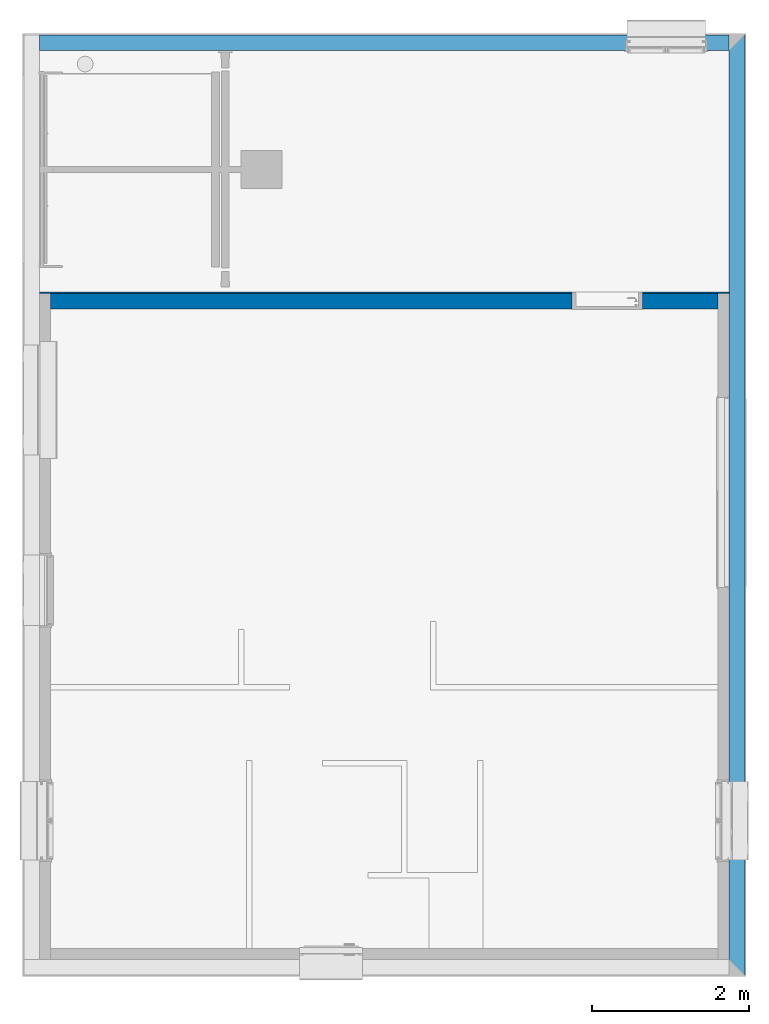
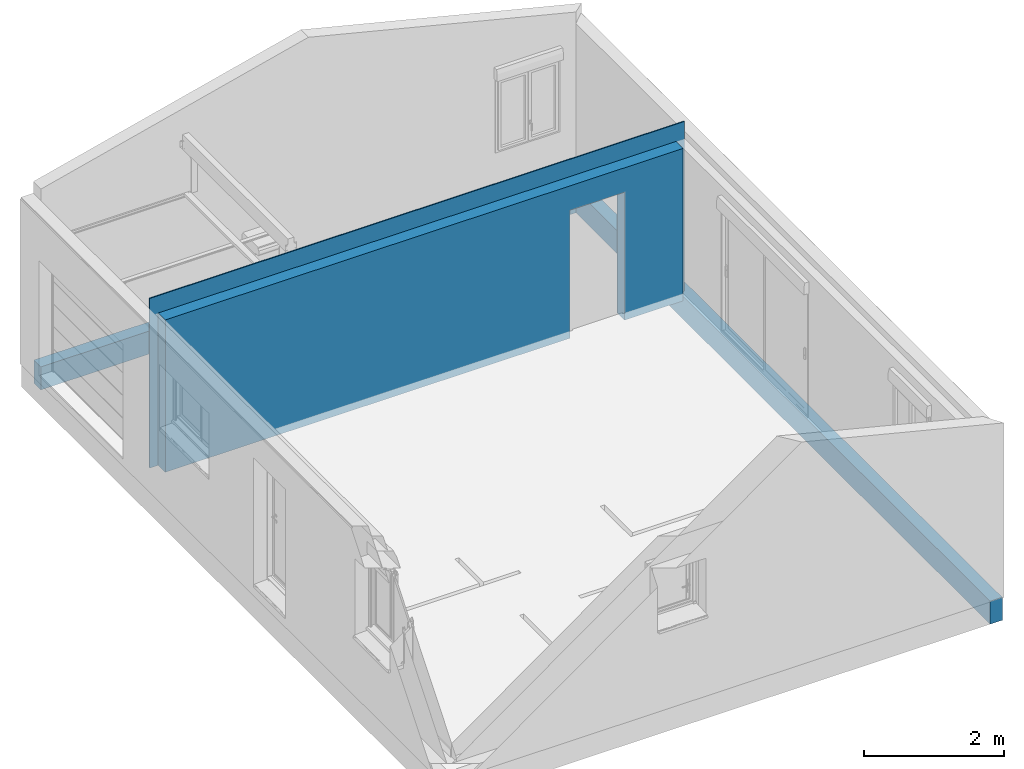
# One storey, part 2 of 7: 4 walls, 2 openings.
"""IFC2X3 building model written with IfcOpenShell, lengths in metres."""

from ifc_helpers import new_model, entity, si_unit, converted_unit, derived_unit, direction, frame, frame_2d, origin, place, context, subcontext, project, spatial, polyline, rectangle, extrude, clip, bounded_halfspace, material, layer, layer_set, layer_usage, type_object, element, save


model = new_model("IFC2X3")

# Units and contexts
model_context = context("Model", 3, precision=1e-05, world=origin(), true_north=direction((6.123031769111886e-17, 1.0)))
body_context = subcontext(model_context, "Body", "Model", "MODEL_VIEW")
ifc_project = project(units=[si_unit("LENGTHUNIT", "METRE"), si_unit("AREAUNIT", "SQUARE_METRE"), si_unit("VOLUMEUNIT", "CUBIC_METRE"), converted_unit("PLANEANGLEUNIT", "DEGREE", entity("IfcRatioMeasure", 0.017453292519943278), si_unit("PLANEANGLEUNIT", "RADIAN"), dimensions=[0, 0, 0, 0, 0, 0, 0]), si_unit("MASSUNIT", "GRAM", prefix="KILO"), derived_unit("MASSDENSITYUNIT", [(si_unit("MASSUNIT", "GRAM", prefix="KILO"), 1), (si_unit("LENGTHUNIT", "METRE"), -3)]), derived_unit("IONCONCENTRATIONUNIT", [(si_unit("MASSUNIT", "GRAM", prefix="KILO"), 1), (si_unit("LENGTHUNIT", "METRE"), -3)]), derived_unit("MOMENTOFINERTIAUNIT", [(si_unit("LENGTHUNIT", "METRE"), 4)]), si_unit("TIMEUNIT", "SECOND"), si_unit("FREQUENCYUNIT", "HERTZ"), si_unit("THERMODYNAMICTEMPERATUREUNIT", "DEGREE_CELSIUS"), derived_unit("THERMALTRANSMITTANCEUNIT", [(si_unit("MASSUNIT", "GRAM", prefix="KILO"), 1), (si_unit("THERMODYNAMICTEMPERATUREUNIT", "KELVIN"), -1), (si_unit("TIMEUNIT", "SECOND"), -3)]), derived_unit("THERMALCONDUCTANCEUNIT", [(si_unit("MASSUNIT", "GRAM", prefix="KILO"), 1), (si_unit("THERMODYNAMICTEMPERATUREUNIT", "KELVIN"), -1), (si_unit("TIMEUNIT", "SECOND"), -3), (si_unit("LENGTHUNIT", "METRE"), 1)]), derived_unit("VOLUMETRICFLOWRATEUNIT", [(si_unit("LENGTHUNIT", "METRE"), 3), (si_unit("TIMEUNIT", "SECOND"), -1)]), derived_unit("MASSFLOWRATEUNIT", [(si_unit("MASSUNIT", "GRAM", prefix="KILO"), 1), (si_unit("TIMEUNIT", "SECOND"), -1)]), derived_unit("ROTATIONALFREQUENCYUNIT", [(si_unit("TIMEUNIT", "SECOND"), -1)]), si_unit("ELECTRICCURRENTUNIT", "AMPERE"), si_unit("ELECTRICVOLTAGEUNIT", "VOLT"), si_unit("POWERUNIT", "WATT"), si_unit("FORCEUNIT", "NEWTON", prefix="KILO"), si_unit("ILLUMINANCEUNIT", "LUX"), si_unit("LUMINOUSFLUXUNIT", "LUMEN"), si_unit("LUMINOUSINTENSITYUNIT", "CANDELA"), derived_unit("USERDEFINED", [(si_unit("MASSUNIT", "GRAM", prefix="KILO"), -1), (si_unit("LENGTHUNIT", "METRE"), -2), (si_unit("TIMEUNIT", "SECOND"), 3), (si_unit("LUMINOUSFLUXUNIT", "LUMEN"), 1)]), derived_unit("USERDEFINED", [(si_unit("MASSUNIT", "GRAM", prefix="KILO"), 1), (si_unit("TIMEUNIT", "SECOND"), -3), (si_unit("LENGTHUNIT", "METRE"), 3), (si_unit("ELECTRICCURRENTUNIT", "AMPERE"), -2)]), derived_unit("SOUNDPOWERUNIT", [(si_unit("MASSUNIT", "GRAM", prefix="KILO"), 1), (si_unit("TIMEUNIT", "SECOND"), -3), (si_unit("LENGTHUNIT", "METRE"), 2)]), derived_unit("SOUNDPRESSUREUNIT", [(si_unit("MASSUNIT", "GRAM", prefix="KILO"), 1), (si_unit("LENGTHUNIT", "METRE"), -1), (si_unit("TIMEUNIT", "SECOND"), -2)]), derived_unit("LINEARVELOCITYUNIT", [(si_unit("LENGTHUNIT", "METRE"), 1), (si_unit("TIMEUNIT", "SECOND"), -1)]), si_unit("PRESSUREUNIT", "PASCAL"), derived_unit("USERDEFINED", [(si_unit("MASSUNIT", "GRAM", prefix="KILO"), 1), (si_unit("LENGTHUNIT", "METRE"), -2), (si_unit("TIMEUNIT", "SECOND"), -2)]), derived_unit("LINEARFORCEUNIT", [(si_unit("MASSUNIT", "GRAM", prefix="KILO"), 1), (si_unit("TIMEUNIT", "SECOND"), -2)]), derived_unit("PLANARFORCEUNIT", [(si_unit("MASSUNIT", "GRAM", prefix="KILO"), 1), (si_unit("LENGTHUNIT", "METRE"), -1), (si_unit("TIMEUNIT", "SECOND"), -2)]), derived_unit("SPECIFICHEATCAPACITYUNIT", [(si_unit("THERMODYNAMICTEMPERATUREUNIT", "KELVIN"), -1), (si_unit("LENGTHUNIT", "METRE"), 2), (si_unit("TIMEUNIT", "SECOND"), -2)]), derived_unit("HEATINGVALUEUNIT", [(si_unit("LENGTHUNIT", "METRE"), 2), (si_unit("TIMEUNIT", "SECOND"), -2)]), derived_unit("VAPORPERMEABILITYUNIT", [(si_unit("LENGTHUNIT", "METRE"), -1), (si_unit("TIMEUNIT", "SECOND"), 1)]), derived_unit("DYNAMICVISCOSITYUNIT", [(si_unit("MASSUNIT", "GRAM", prefix="KILO"), 1), (si_unit("TIMEUNIT", "SECOND"), -1), (si_unit("LENGTHUNIT", "METRE"), -1)]), derived_unit("THERMALEXPANSIONCOEFFICIENTUNIT", [(si_unit("THERMODYNAMICTEMPERATUREUNIT", "KELVIN"), -1)]), derived_unit("MODULUSOFELASTICITYUNIT", [(si_unit("MASSUNIT", "GRAM", prefix="KILO"), 1), (si_unit("LENGTHUNIT", "METRE"), -1), (si_unit("TIMEUNIT", "SECOND"), -2)]), derived_unit("ISOTHERMALMOISTURECAPACITYUNIT", [(si_unit("LENGTHUNIT", "METRE"), 3), (si_unit("MASSUNIT", "GRAM", prefix="KILO"), -1)]), derived_unit("MOISTUREDIFFUSIVITYUNIT", [(si_unit("TIMEUNIT", "SECOND"), -1), (si_unit("LENGTHUNIT", "METRE"), 2)])], contexts=[model_context])

# Site, building, storey
site_placement = place(None, frame((1.2553507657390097, -0.6266432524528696, -1.0397761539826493), z_axis=(0.0, 0.0, 1.0), x_axis=(-1.0, 0.0, 0.0)))
site = spatial("IfcSite", under=ifc_project, at=site_placement, Name="Default", CompositionType="ELEMENT")
building_placement = place(site_placement, origin())
building = spatial("IfcBuilding", under=site, at=building_placement, Name="MAISON D'HABITATION", CompositionType="ELEMENT")
storey_placement = place(building_placement, frame((0.0, 0.0, 0.38977615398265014)))
storey = spatial("IfcBuildingStorey", under=building, at=storey_placement, Name="Niveau dessus semelle filante", CompositionType="ELEMENT", Elevation=0.38977615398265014)

# Wall, opening
ifc_material_1 = material(Name="Isolation 0.18m")
ifc_layer_1 = layer(ifc_material_1, 0.18)
ifc_material_2 = material(Name="Plaque de mur de gypse")
ifc_layer_2 = layer(ifc_material_2, 0.013)
ifc_material_3 = material(Name="Peinture")
ifc_layer_3 = layer(ifc_material_3, 0.007)
ifc_layer_set_1 = layer_set([ifc_layer_1, ifc_layer_2, ifc_layer_3], Name="Mur de base:isolation+placo+peinture 20cm")
ifc_layer_usage_1 = layer_usage(ifc_layer_set_1, "AXIS2", "POSITIVE", -0.1)
wall_type_1 = type_object("IfcWallType", Name="Mur de base:isolation+placo+peinture 20cm", PredefinedType="STANDARD", material=ifc_layer_set_1)
wall_1_placement = place(storey_placement, frame((-4.539866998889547, -5.263816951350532, 0.5199999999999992)))
wall_1 = element("IfcWallStandardCase", 1, at=wall_1_placement, inside=storey, type_object=wall_type_1, material=ifc_layer_usage_1, Name="Mur de base:isolation+placo+peinture 20cm", ObjectType="Mur de base:isolation+placo+peinture 20cm", context=body_context, shape_type="SweptSolid", body=[
    extrude(rectangle(XDim=8.519999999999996, YDim=0.2, at=frame_2d((4.259999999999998, 2.7755575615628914e-17), x_axis=(1.0, 0.0))), origin(), (0.0, 0.0, 1.0), 2.6499999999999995),
])
opening_1_placement = place(wall_1_placement, frame((0.9650000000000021, -0.1000000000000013, 0.0)))
element("IfcOpeningElement", 2, at=opening_1_placement, cuts=wall_1, Name="porte intérieur Simple reservation 13 cm:80 x 204:1", ObjectType="Opening", context=body_context, shape_type="SweptSolid", body=[
    extrude(rectangle(XDim=2.224999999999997, YDim=0.8999999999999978, at=frame_2d((1.1124999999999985, 0.4499999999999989), x_axis=(1.0, 0.0))), frame((0.0, 0.0, 0.0), z_axis=(0.0, 1.0, 0.0), x_axis=(0.0, 0.0, 1.0)), (0.0, 0.0, 1.0), 0.2),
])

ifc_material_4 = material(Name="Osb 0.18m")
ifc_layer_4 = layer(ifc_material_4, 0.018)
ifc_layer_set_2 = layer_set([ifc_layer_4], Name="Mur de base:OSB 0.18m")
ifc_layer_usage_2 = layer_usage(ifc_layer_set_2, "AXIS2", "POSITIVE", -0.009)
wall_type_2 = type_object("IfcWallType", Name="Mur de base:OSB 0.18m", PredefinedType="STANDARD", material=ifc_layer_set_2)
wall_2_placement = place(storey_placement, frame((4.120133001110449, -5.372816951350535, 0.5199999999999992), z_axis=(0.0, 0.0, 1.0), x_axis=(-1.0, 0.0, 0.0)))
wall_2 = element("IfcWallStandardCase", 3, at=wall_2_placement, inside=storey, type_object=wall_type_2, material=ifc_layer_usage_2, Name="Mur de base:OSB 0.18m", ObjectType="Mur de base:OSB 0.18m", context=body_context, shape_type="SweptSolid", body=[
    extrude(rectangle(XDim=8.799999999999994, YDim=0.018000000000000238, at=frame_2d((4.399999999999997, 4.163336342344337e-17), x_axis=(-1.0, 0.0))), origin(), (0.0, 0.0, 1.0), 2.9499999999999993),
])
opening_2_placement = place(wall_2_placement, origin())
element("IfcOpeningElement", 4, at=opening_2_placement, cuts=wall_2, Name="Mur de base:OSB 0.18m", ObjectType="Opening", context=body_context, shape_type="SweptSolid", body=[
    extrude(rectangle(XDim=2.224999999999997, YDim=0.8999999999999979, at=frame_2d((3.3306690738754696e-16, 0.0), x_axis=(1.0, 0.0))), frame((7.244999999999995, -1.7330000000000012, 1.1124999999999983), z_axis=(0.0, 1.0, 0.0), x_axis=(0.0, 0.0, 1.0)), (0.0, 0.0, 1.0), 3.0479999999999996),
])

# Walls
ifc_material_5 = material(Name="Mur par défaut")
ifc_layer_5 = layer(ifc_material_5, 0.2)
ifc_layer_set_3 = layer_set([ifc_layer_5], Name="Mur de base:Générique - 200 mm")
ifc_layer_usage_3 = layer_usage(ifc_layer_set_3, "AXIS2", "POSITIVE", -0.1)
wall_type_3 = type_object("IfcWallType", Name="Mur de base:Générique - 200 mm", PredefinedType="STANDARD", material=ifc_layer_set_3)
wall_3_placement = place(storey_placement, frame((-4.779866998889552, -8.663816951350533, 0.0), z_axis=(0.0, 0.0, 1.0), x_axis=(0.0, 1.0, 0.0)))
element("IfcWallStandardCase", 5, at=wall_3_placement, inside=storey, type_object=wall_type_3, material=ifc_layer_usage_3, Name="Mur de base:Générique - 200 mm", ObjectType="Mur de base:Générique - 200 mm", context=body_context, shape_type="SweptSolid", body=[
    extrude(rectangle(XDim=11.999999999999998, YDim=0.2, at=frame_2d((5.999999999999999, -8.326672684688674e-17), x_axis=(-1.0, 0.0))), origin(), (0.0, 0.0, 1.0), 0.39999999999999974),
])
wall_4_placement = place(storey_placement, frame((4.120133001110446, -8.563816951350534, 0.0), z_axis=(0.0, 0.0, 1.0), x_axis=(-1.0, 0.0, 0.0)))
element("IfcWallStandardCase", 6, at=wall_4_placement, inside=storey, type_object=wall_type_3, material=ifc_layer_usage_3, Name="Mur de base:Générique - 200 mm", ObjectType="Mur de base:Générique - 200 mm", context=body_context, shape_type="Clipping", body=[
    clip(extrude(rectangle(XDim=8.799999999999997, YDim=0.2, at=frame_2d((4.399999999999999, 2.7755575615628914e-17), x_axis=(-1.0, 0.0))), origin(), (0.0, 0.0, 1.0), 0.39999999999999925), bounded_halfspace(frame((0.0, -0.1, 0.39999999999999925), z_axis=(0.0, 0.0, -1.0), x_axis=(-1.0, 0.0, 0.0)), True, frame((0.0, -0.1, 0.39999999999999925)), polyline([(0.0, 0.0), (8.799999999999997, 0.0), (8.799999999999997, 0.2), (0.0, 0.2), (0.0, 0.0)]))),
])

save(model, "model.ifc")
